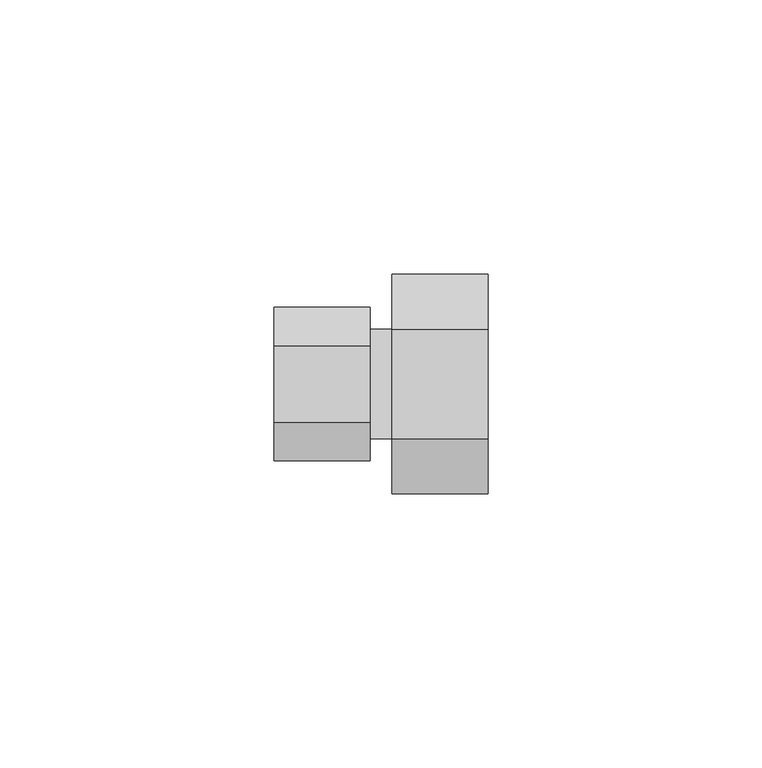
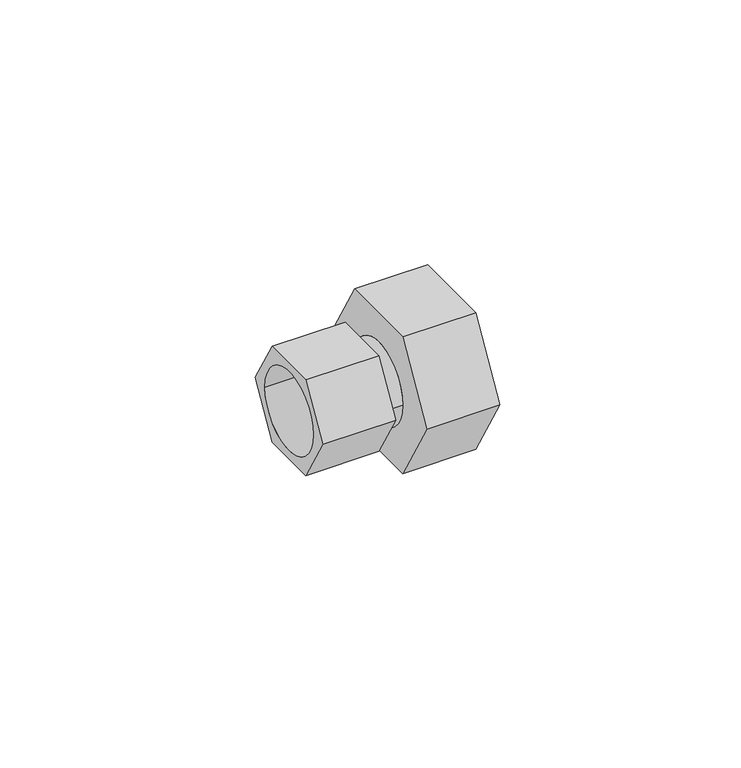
"""IFC4 building model written with IfcOpenShell, lengths in millimetres: pipe fitting geometry, БИР ПЕКС_КМП_Соединитель_Резьба_Внутренняя : Соединитель прямой с внутренней резьбой_КМП."""

import ifcopenshell
import ifcopenshell.guid

model = None  # the IFC model being written
_history = None  # IfcOwnerHistory: only IFC2X3 demands one
_inside = {}  # id of a spatial element -> (the spatial element, [elements in it])
_under = {}  # id of a project, library or spatial element -> (it, [spatial elements below it])
_declared = {}  # id of a project -> (the project, [libraries it declares])
_typed = {}  # id of a type object -> (the type object, [elements of that type])
_made_of = {}  # id of a material, layer set ... -> (it, [elements and type objects made of it])


def new_model(schema):
    """Start an empty IFC model of exactly this schema.

    Asked for "IFC4X3", IfcOpenShell would pick the latest addendum, in which some entities
    have other attributes; the version numbers below select the first issue.
    IFC2X3 requires an IfcOwnerHistory on every rooted entity: one is made here for all.
    """
    global model, _history
    if schema == "IFC4X3":
        model = ifcopenshell.file(schema_version=(4, 3, 0, 0))
    else:
        model = ifcopenshell.file(schema=schema)
    _inside.clear()
    _under.clear()
    _declared.clear()
    _typed.clear()
    _made_of.clear()
    _history = None
    if model.schema == "IFC2X3":
        org = make("IfcOrganization", Name="unknown")
        user = make(
            "IfcPersonAndOrganization",
            ThePerson=make("IfcPerson", FamilyName="unknown"),
            TheOrganization=org,
        )
        app = make(
            "IfcApplication",
            ApplicationDeveloper=org,
            Version="unknown",
            ApplicationFullName="unknown",
            ApplicationIdentifier="unknown",
        )
        _history = make(
            "IfcOwnerHistory",
            OwningUser=user,
            OwningApplication=app,
            ChangeAction="ADDED",
            CreationDate=0,
        )
    return model


def make(cls, **values):
    """One entity of the class cls with the attributes given. An attribute that is None is left unset."""
    return model.create_entity(
        cls, **{name: value for name, value in values.items() if value is not None}
    )


def rooted(cls, **values):
    """An entity with a GlobalId (a new one), such as an element, a storey or a relation."""
    return make(cls, GlobalId=ifcopenshell.guid.new(), OwnerHistory=_history, **values)


def si_unit(unit_type, name, prefix=None):
    """IfcSIUnit, for example si_unit("LENGTHUNIT", "METRE", prefix="MILLI")."""
    return make("IfcSIUnit", UnitType=unit_type, Prefix=prefix, Name=name)


def assignment(units):
    """IfcUnitAssignment: the units of a project."""
    return None if units is None else make("IfcUnitAssignment", Units=units)


def point(xyz):
    """IfcCartesianPoint."""
    return None if xyz is None else make("IfcCartesianPoint", Coordinates=xyz)


def direction(xyz):
    """IfcDirection."""
    return None if xyz is None else make("IfcDirection", DirectionRatios=xyz)


def frame(location, z_axis=None, x_axis=None):
    """IfcAxis2Placement3D, a coordinate frame: its origin and axes. An axis left out is left unset."""
    return make(
        "IfcAxis2Placement3D",
        Location=point(location),
        Axis=direction(z_axis),
        RefDirection=direction(x_axis),
    )


def frame_2d(location, x_axis=None):
    """IfcAxis2Placement2D, a coordinate frame in the plane: its origin and x axis."""
    return make(
        "IfcAxis2Placement2D", Location=point(location), RefDirection=direction(x_axis)
    )


def origin():
    """The frame at (0, 0, 0) with its axes left unset."""
    return frame((0.0, 0.0, 0.0))


def origin_2d():
    """The frame at (0, 0) in the plane with its x axis left unset."""
    return frame_2d((0.0, 0.0))


def place(relative_to, where):
    """IfcLocalPlacement: puts the frame where relative to a parent placement (None: the world)."""
    return make(
        "IfcLocalPlacement", PlacementRelTo=relative_to, RelativePlacement=where
    )


def context(
    kind, dimensions, precision=None, world=None, true_north=None, identifier=None
):
    """IfcGeometricRepresentationContext, for example the 3D "Model" context."""
    return make(
        "IfcGeometricRepresentationContext",
        ContextIdentifier=identifier,
        ContextType=kind,
        CoordinateSpaceDimension=dimensions,
        Precision=precision,
        WorldCoordinateSystem=world,
        TrueNorth=true_north,
    )


def project(units=None, contexts=None):
    """IfcProject with its units and contexts."""
    return rooted(
        "IfcProject",
        Name="project",
        RepresentationContexts=contexts,
        UnitsInContext=assignment(units),
    )


def spatial(cls, under=None, at=None, **own):
    """A site, building, storey or space (cls), placed at a placement, below another one or the project."""
    s = rooted(cls, ObjectPlacement=at, **own)
    if under is not None:
        _under.setdefault(under.id(), (under, []))[1].append(s)
    return s


def polyline(points):
    """IfcPolyline through the points."""
    return make("IfcPolyline", Points=[point(p) for p in points])


def circle_curve(where, radius):
    """IfcCircle in the frame where."""
    return make("IfcCircle", Position=where, Radius=radius)


def trimmed(basis, trim1, trim2, sense, master):
    """IfcTrimmedCurve: the piece of a basis curve between two trims."""
    return make(
        "IfcTrimmedCurve",
        BasisCurve=basis,
        Trim1=trim1,
        Trim2=trim2,
        SenseAgreement=sense,
        MasterRepresentation=master,
    )


def segment(curve, same_sense, transition):
    """IfcCompositeCurveSegment."""
    return make(
        "IfcCompositeCurveSegment",
        Transition=transition,
        SameSense=same_sense,
        ParentCurve=curve,
    )


def composite_curve(segments, self_intersect=None):
    """IfcCompositeCurve: segments joined end to end."""
    return make("IfcCompositeCurve", Segments=segments, SelfIntersect=self_intersect)


def outline(outer, holes=None, kind="AREA"):
    """IfcArbitraryClosedProfileDef: a profile drawn as a closed curve; with holes, ...WithVoids."""
    if holes is None:
        return make("IfcArbitraryClosedProfileDef", ProfileType=kind, OuterCurve=outer)
    return make(
        "IfcArbitraryProfileDefWithVoids",
        ProfileType=kind,
        OuterCurve=outer,
        InnerCurves=holes,
    )


def extrude(swept, where, along, depth):
    """IfcExtrudedAreaSolid: the profile swept, set in the frame where, extruded along a direction by depth."""
    return make(
        "IfcExtrudedAreaSolid",
        SweptArea=swept,
        Position=where,
        ExtrudedDirection=direction(along),
        Depth=depth,
    )


def shape(context_of_items, identifier, shape_type, items):
    """IfcShapeRepresentation: the items that make up one representation, for example the "Body"."""
    return make(
        "IfcShapeRepresentation",
        ContextOfItems=context_of_items,
        RepresentationIdentifier=identifier,
        RepresentationType=shape_type,
        Items=items,
    )


def source(mapping_origin, context_of_items, identifier, shape_type, items):
    """IfcRepresentationMap: a shape defined once, which mapped items show again and again."""
    return make(
        "IfcRepresentationMap",
        MappingOrigin=mapping_origin,
        MappedRepresentation=shape(context_of_items, identifier, shape_type, items),
    )


def transform(
    local_origin,
    x_axis=None,
    y_axis=None,
    z_axis=None,
    scale=None,
    scale2=None,
    scale3=None,
    uniform=True,
):
    """IfcCartesianTransformationOperator3D, or its non-uniform kind. x_axis, y_axis, z_axis: its Axis1, 2, 3."""
    if uniform:
        return make(
            "IfcCartesianTransformationOperator3D",
            Axis1=direction(x_axis),
            Axis2=direction(y_axis),
            LocalOrigin=point(local_origin),
            Scale=scale,
            Axis3=direction(z_axis),
        )
    return make(
        "IfcCartesianTransformationOperator3DnonUniform",
        Axis1=direction(x_axis),
        Axis2=direction(y_axis),
        LocalOrigin=point(local_origin),
        Scale=scale,
        Axis3=direction(z_axis),
        Scale2=scale2,
        Scale3=scale3,
    )


def mapped(mapping_source, mapping_target):
    """IfcMappedItem: shows the shape of a source again, moved by a transform."""
    return make(
        "IfcMappedItem", MappingSource=mapping_source, MappingTarget=mapping_target
    )


def made_of(thing, what):
    """Note that an element or type object is made of a material, layer set ...; save() writes the relation."""
    if what is not None:
        _made_of.setdefault(what.id(), (what, []))[1].append(thing)
    return thing


def element(
    cls,
    number,
    at=None,
    inside=None,
    cuts=None,
    type_object=None,
    material=None,
    context=None,
    identifier="Body",
    shape_type=None,
    held_by="IfcProductDefinitionShape",
    body=None,
    shapes=None,
    **own,
):
    """One element of the class cls, such as IfcWall. Its Tag is "e" and its number.

    at: its placement. inside: the storey or other place that contains it. cuts: it is an
    opening in that element (IfcRelVoidsElement). A single representation is given by context,
    identifier, shape_type and body (its items); several are given by shapes. held_by: the class
    of the entity that holds the representations. save() writes the other relations.
    """
    e = rooted(cls, Tag="e%d" % number, ObjectPlacement=at, **own)
    if body is not None:
        shapes = [shape(context, identifier, shape_type, body)]
    if shapes is not None:
        e.Representation = make(held_by, Representations=shapes)
    if inside is not None:
        _inside.setdefault(inside.id(), (inside, []))[1].append(e)
    if cuts is not None:
        rooted(
            "IfcRelVoidsElement", RelatingBuildingElement=cuts, RelatedOpeningElement=e
        )
    if type_object is not None:
        _typed.setdefault(type_object.id(), (type_object, []))[1].append(e)
    return made_of(e, material)


def aggregate(whole, parts):
    """IfcRelAggregates: a whole, such as a stair, and the parts it consists of."""
    return rooted("IfcRelAggregates", RelatingObject=whole, RelatedObjects=parts)


def save(model, path):
    """Write the relations noted so far, then the file.

    IfcRelAggregates (storeys below a building ...), IfcRelContainedInSpatialStructure (elements
    in a storey), IfcRelDefinesByType, IfcRelAssociatesMaterial and IfcRelDeclares: one each for
    every whole, place, type object, material and project.
    """
    for whole, parts in _under.values():
        aggregate(whole, parts)
    for where, things in _inside.values():
        rooted(
            "IfcRelContainedInSpatialStructure",
            RelatedElements=things,
            RelatingStructure=where,
        )
    for kind, things in _typed.values():
        rooted("IfcRelDefinesByType", RelatedObjects=things, RelatingType=kind)
    for what, things in _made_of.values():
        rooted("IfcRelAssociatesMaterial", RelatedObjects=things, RelatingMaterial=what)
    for by, libraries in _declared.values():
        rooted("IfcRelDeclares", RelatingContext=by, RelatedDefinitions=libraries)
    model.write(path)


def pipe_fitting_783c9a87(model_context):
    return source(origin(), model_context, "Body", "SweptSolid", [
        extrude(outline(polyline([(-7.0, -12.1243557), (-14.0, 0.0), (-7.0, 12.1243557), (7.0, 12.1243557), (14.0, 0.0), (7.0, -12.1243557), (-7.0, -12.1243557)]), holes=[composite_curve([segment(trimmed(circle_curve(origin_2d(), 10.0), [point((-10.0, 0.0))], [point((10.0, 0.0))], True, "CARTESIAN"), True, "CONTINUOUS"), segment(trimmed(circle_curve(origin_2d(), 10.0), [point((10.0, 0.0))], [point((-10.0, 0.0))], True, "CARTESIAN"), True, "CONTINUOUS")], self_intersect=False)]), frame((-21.5, 0.0, 0.0), z_axis=(1.0, 0.0, 0.0), x_axis=(0.0, 1.0, 0.0)), (0.0, 0.0, 1.0), 17.5),
        extrude(outline(polyline([(-10.0, -17.3205081), (-20.0, 0.0), (-10.0, 17.3205081), (10.0, 17.3205081), (20.0, 0.0), (10.0, -17.3205081), (-10.0, -17.3205081)]), holes=[composite_curve([segment(trimmed(circle_curve(origin_2d(), 10.0), [point((-10.0, 0.0))], [point((10.0, 0.0))], True, "CARTESIAN"), True, "CONTINUOUS"), segment(trimmed(circle_curve(origin_2d(), 10.0), [point((10.0, 0.0))], [point((-10.0, 0.0))], True, "CARTESIAN"), True, "CONTINUOUS")], self_intersect=False)]), frame((0.0, 0.0, 0.0), z_axis=(1.0, 0.0, 0.0), x_axis=(0.0, 1.0, 0.0)), (0.0, 0.0, 1.0), 17.5),
        extrude(outline(composite_curve([segment(trimmed(circle_curve(origin_2d(), 10.0), [point((-10.0, 0.0))], [point((10.0, 0.0))], False, "CARTESIAN"), True, "CONTINUOUS"), segment(trimmed(circle_curve(origin_2d(), 10.0), [point((10.0, 0.0))], [point((-10.0, 0.0))], False, "CARTESIAN"), True, "CONTINUOUS")], self_intersect=False)), frame((-4.0, 0.0, 0.0), z_axis=(1.0, 0.0, 0.0), x_axis=(0.0, 1.0, 0.0)), (0.0, 0.0, 1.0), 4.0),
    ])


if __name__ == "__main__":
    model = new_model("IFC4")
    model_context = context("Model", 3, world=origin())
    ifc_project = project(units=[si_unit("LENGTHUNIT", "METRE", prefix="MILLI")], contexts=[model_context])
    site = spatial("IfcSite", under=ifc_project)
    building = spatial("IfcBuilding", under=site)
    placement = place(None, origin())
    pipe_fitting_shape = pipe_fitting_783c9a87(model_context)
    element("IfcPipeFitting", 1, ObjectType="БИР ПЕКС_КМП_Соединитель_Резьба_Внутренняя : Соединитель прямой с внутренней резьбой_КМП", at=placement, inside=building, context=model_context, shape_type="MappedRepresentation", body=[
        mapped(pipe_fitting_shape, transform((0.0, 0.0, 0.0), x_axis=(1.0, 0.0, 0.0), y_axis=(0.0, 1.0, 0.0), z_axis=(0.0, 0.0, 1.0))),
    ])
    save(model, "model.ifc")
